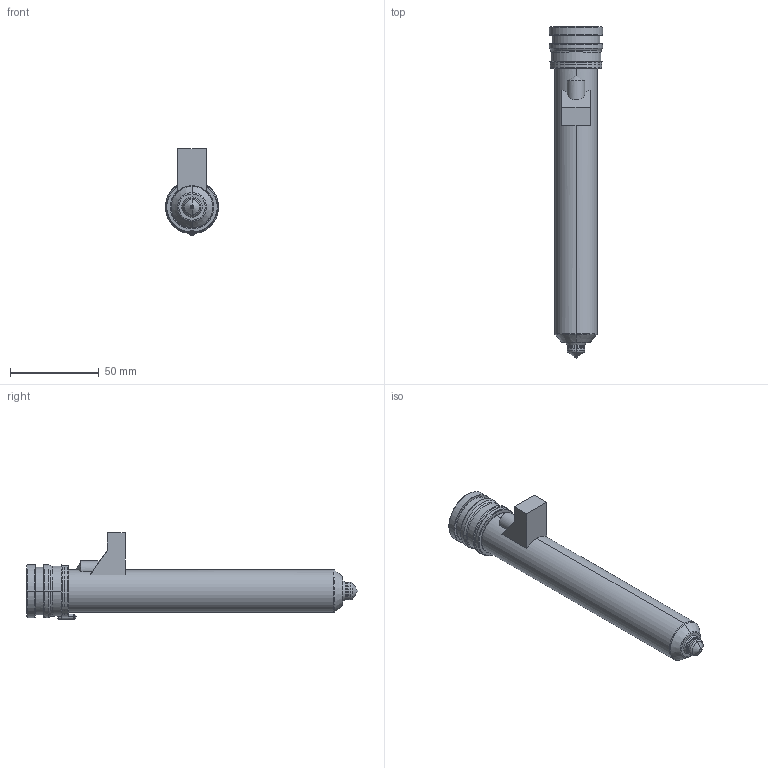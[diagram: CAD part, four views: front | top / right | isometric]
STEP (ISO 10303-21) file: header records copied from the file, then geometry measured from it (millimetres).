
FILE_DESCRIPTION((''),'2;1');
FILE_NAME('MPN-10-29-TX10-166-M','2026-02-05T12:51:46',('UPTIO'),('Thermoplay S.p.A.'),'CREO PARAMETRIC BY PTC INC, 2023494','CREO PARAMETRIC BY PTC INC, 2023494','');
FILE_SCHEMA(('CONFIG_CONTROL_DESIGN','SHAPE_APPEARANCE_LAYERS_GROUPS'));
Length unit declared in the file: millimetre
Products named in the file (1): MPN-10-29-TX10-166-M
Bounding box: 30 x 187.5 x 49 mm (x, y, z)
Volume: 58122.2 mm3; surface area: 59658.5 mm2
Topology: 3 solids, 5 shells, 541 faces, 1383 edges, 844 vertices
Faces by surface type: cylinder 177, plane 146, bspline 73, torus 67, cone 64, sphere 10, extrusion 4
Entity records: 29297 total; most frequent: CARTESIAN_POINT 13531, ORIENTED_EDGE 2748, DIRECTION 2568, EDGE_CURVE 1374, AXIS2_PLACEMENT_3D 1017, VERTEX_POINT 844, EDGE_LOOP 570, CIRCLE 552
